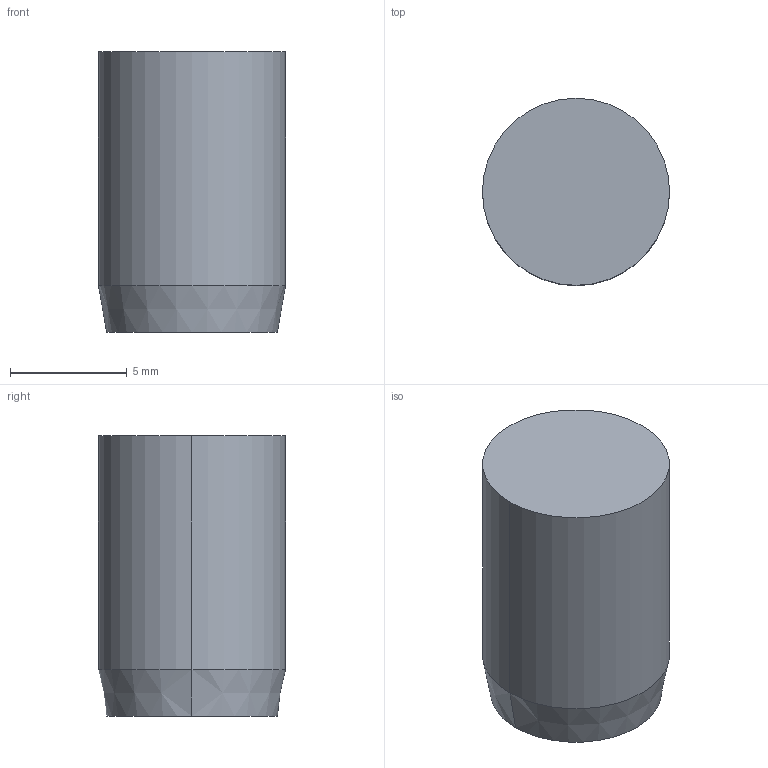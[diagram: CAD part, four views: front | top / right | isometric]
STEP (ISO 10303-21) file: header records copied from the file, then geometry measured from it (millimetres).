
FILE_DESCRIPTION (( 'STEP AP214' ), '1' );
FILE_NAME ('BruyRubio_VA-8.STEP', '2019-12-19T14:10:16', ( '' ), ( '' ), 'SwSTEP 2.0', 'SolidWorks 2017', '' );
FILE_SCHEMA (( 'AUTOMOTIVE_DESIGN' ));
Length unit declared in the file: millimetre
Products named in the file (1): BruyRubio_VA-8
Bounding box: 8 x 8 x 12 mm (x, y, z)
Volume: 582 mm3; surface area: 404.7 mm2
Topology: 1 solids, 1 shells, 9 faces, 16 edges, 10 vertices
Faces by surface type: cylinder 4, plane 3, cone 2
Entity records: 357 total; most frequent: DIRECTION 46, CARTESIAN_POINT 36, ORIENTED_EDGE 32, AXIS2_PLACEMENT_3D 20, EDGE_CURVE 16, UNCERTAINTY_MEASURE_WITH_UNIT 12, STYLED_ITEM 11, SURFACE_STYLE_USAGE 11
